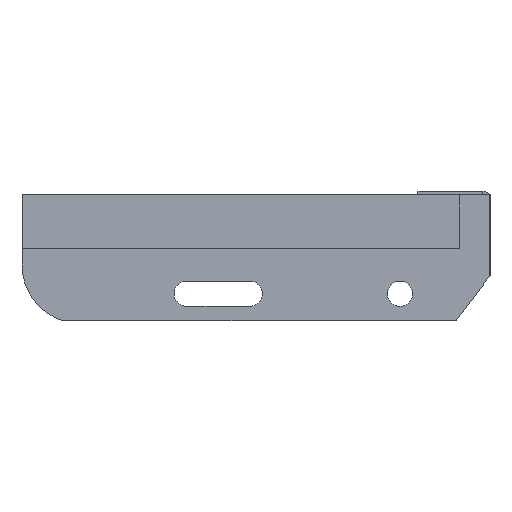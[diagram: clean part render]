
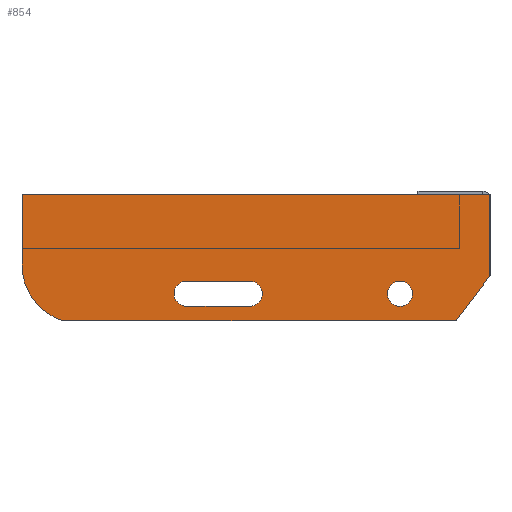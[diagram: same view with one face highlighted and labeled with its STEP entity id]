
A CAD part, left-side view. The second image highlights one B-rep face of the part: STEP entity #854.
In plain terms, the highlighted planar face has unit normal (-1, 0, 0) as drawn and (0, 0, 1) by its records, which use the part's own axes.
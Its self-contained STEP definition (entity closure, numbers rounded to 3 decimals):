
#1 = AXIS2_PLACEMENT_3D ( 'NONE', #1515, #311, #1839 ) ;
#25 = EDGE_CURVE ( 'NONE', #1684, #355, #639, .T. ) ;
#30 = EDGE_CURVE ( 'NONE', #990, #489, #1820, .T. ) ;
#31 = DIRECTION ( 'NONE',  ( 1., 0., 0. ) ) ;
#42 = CARTESIAN_POINT ( 'NONE',  ( 0., 0., 3. ) ) ;
#58 = CARTESIAN_POINT ( 'NONE',  ( -168.5, -48., 3. ) ) ;
#73 = CARTESIAN_POINT ( 'NONE',  ( -57., -55., 3. ) ) ;
#86 = VERTEX_POINT ( 'NONE', #1883 ) ;
#90 = FACE_BOUND ( 'NONE', #1523, .T. ) ;
#101 = DIRECTION ( 'NONE',  ( 0., 0., 1. ) ) ;
#102 = LINE ( 'NONE', #1022, #465 ) ;
#114 = CARTESIAN_POINT ( 'NONE',  ( -168.5, -55., 3. ) ) ;
#118 = DIRECTION ( 'NONE',  ( 1., 0., 0. ) ) ;
#137 = VERTEX_POINT ( 'NONE', #510 ) ;
#148 = ORIENTED_EDGE ( 'NONE', *, *, #1173, .F. ) ;
#151 = EDGE_CURVE ( 'NONE', #651, #1581, #1215, .T. ) ;
#155 = EDGE_LOOP ( 'NONE', ( #148, #247, #545, #1534, #2009 ) ) ;
#172 = VECTOR ( 'NONE', #1550, 1000. ) ;
#182 = CIRCLE ( 'NONE', #1373, 7. ) ;
#190 = LINE ( 'NONE', #615, #1412 ) ;
#195 = CARTESIAN_POINT ( 'NONE',  ( -237.26, -70., 3. ) ) ;
#199 = VERTEX_POINT ( 'NONE', #195 ) ;
#247 = ORIENTED_EDGE ( 'NONE', *, *, #1609, .F. ) ;
#249 = EDGE_CURVE ( 'NONE', #1581, #137, #381, .T. ) ;
#286 = CARTESIAN_POINT ( 'NONE',  ( -175.5, -55., 3. ) ) ;
#311 = DIRECTION ( 'NONE',  ( 0., 0., 1. ) ) ;
#325 = CARTESIAN_POINT ( 'NONE',  ( -50., -55., 3. ) ) ;
#333 = EDGE_LOOP ( 'NONE', ( #632, #443, #1065, #559, #573, #1266 ) ) ;
#337 = DIRECTION ( 'NONE',  ( 1., 0., 0. ) ) ;
#348 = LINE ( 'NONE', #966, #1972 ) ;
#352 = DIRECTION ( 'NONE',  ( 0., 0., 1. ) ) ;
#355 = VERTEX_POINT ( 'NONE', #73 ) ;
#368 = FACE_OUTER_BOUND ( 'NONE', #333, .T. ) ;
#373 = DIRECTION ( 'NONE',  ( 0., 1., 0. ) ) ;
#381 = LINE ( 'NONE', #58, #641 ) ;
#407 = CIRCLE ( 'NONE', #1835, 32.5 ) ;
#422 = EDGE_CURVE ( 'NONE', #490, #1682, #713, .T. ) ;
#443 = ORIENTED_EDGE ( 'NONE', *, *, #661, .T. ) ;
#449 = CARTESIAN_POINT ( 'NONE',  ( -18.839, -70., 3. ) ) ;
#465 = VECTOR ( 'NONE', #373, 1000. ) ;
#484 = LINE ( 'NONE', #42, #172 ) ;
#489 = VERTEX_POINT ( 'NONE', #1991 ) ;
#490 = VERTEX_POINT ( 'NONE', #1209 ) ;
#510 = CARTESIAN_POINT ( 'NONE',  ( -168.5, -48., 3. ) ) ;
#528 = EDGE_CURVE ( 'NONE', #137, #544, #1439, .T. ) ;
#542 = AXIS2_PLACEMENT_3D ( 'NONE', #802, #352, #789 ) ;
#544 = VERTEX_POINT ( 'NONE', #286 ) ;
#545 = ORIENTED_EDGE ( 'NONE', *, *, #528, .F. ) ;
#559 = ORIENTED_EDGE ( 'NONE', *, *, #1204, .T. ) ;
#573 = ORIENTED_EDGE ( 'NONE', *, *, #1314, .T. ) ;
#580 = CARTESIAN_POINT ( 'NONE',  ( -260., 0., 3. ) ) ;
#615 = CARTESIAN_POINT ( 'NONE',  ( -18.839, -70., 3. ) ) ;
#632 = ORIENTED_EDGE ( 'NONE', *, *, #1957, .T. ) ;
#639 = CIRCLE ( 'NONE', #676, 7. ) ;
#641 = VECTOR ( 'NONE', #1168, 1000. ) ;
#651 = VERTEX_POINT ( 'NONE', #933 ) ;
#661 = EDGE_CURVE ( 'NONE', #1598, #490, #484, .T. ) ;
#676 = AXIS2_PLACEMENT_3D ( 'NONE', #1192, #1813, #118 ) ;
#713 = LINE ( 'NONE', #580, #837 ) ;
#721 = PLANE ( 'NONE',  #2003 ) ;
#753 = CARTESIAN_POINT ( 'NONE',  ( -260., -39., 3. ) ) ;
#765 = CARTESIAN_POINT ( 'NONE',  ( -133.5, -48., 3. ) ) ;
#789 = DIRECTION ( 'NONE',  ( 1., 0., 0. ) ) ;
#802 = CARTESIAN_POINT ( 'NONE',  ( -133.5, -55., 3. ) ) ;
#837 = VECTOR ( 'NONE', #1810, 1000. ) ;
#854 = ADVANCED_FACE ( 'NONE', ( #368, #90, #977 ), #721, .T. ) ;
#933 = CARTESIAN_POINT ( 'NONE',  ( -133.5, -62., 3. ) ) ;
#940 = CARTESIAN_POINT ( 'NONE',  ( -227.5, -39., 3. ) ) ;
#966 = CARTESIAN_POINT ( 'NONE',  ( -168.5, -62., 3. ) ) ;
#977 = FACE_BOUND ( 'NONE', #155, .T. ) ;
#985 = CARTESIAN_POINT ( 'NONE',  ( -227.5, -39., 3. ) ) ;
#990 = VERTEX_POINT ( 'NONE', #449 ) ;
#1000 = DIRECTION ( 'NONE',  ( 1., 0., 0. ) ) ;
#1022 = CARTESIAN_POINT ( 'NONE',  ( 0., 0., 3. ) ) ;
#1051 = DIRECTION ( 'NONE',  ( 1., 0., 0. ) ) ;
#1065 = ORIENTED_EDGE ( 'NONE', *, *, #422, .T. ) ;
#1071 = AXIS2_PLACEMENT_3D ( 'NONE', #114, #101, #1051 ) ;
#1168 = DIRECTION ( 'NONE',  ( -1., 0., 0. ) ) ;
#1173 = EDGE_CURVE ( 'NONE', #86, #651, #348, .T. ) ;
#1191 = EDGE_CURVE ( 'NONE', #355, #1684, #182, .T. ) ;
#1192 = CARTESIAN_POINT ( 'NONE',  ( -50., -55., 3. ) ) ;
#1204 = EDGE_CURVE ( 'NONE', #1682, #199, #407, .T. ) ;
#1209 = CARTESIAN_POINT ( 'NONE',  ( -260., 0., 3. ) ) ;
#1214 = CARTESIAN_POINT ( 'NONE',  ( 0., 0., 3. ) ) ;
#1215 = CIRCLE ( 'NONE', #542, 7. ) ;
#1226 = DIRECTION ( 'NONE',  ( 1., 0., 0. ) ) ;
#1241 = DIRECTION ( 'NONE',  ( 0.602, 0.799, 0. ) ) ;
#1266 = ORIENTED_EDGE ( 'NONE', *, *, #30, .T. ) ;
#1314 = EDGE_CURVE ( 'NONE', #199, #990, #190, .T. ) ;
#1373 = AXIS2_PLACEMENT_3D ( 'NONE', #325, #1861, #31 ) ;
#1412 = VECTOR ( 'NONE', #1424, 1000. ) ;
#1424 = DIRECTION ( 'NONE',  ( 1., 0., 0. ) ) ;
#1439 = CIRCLE ( 'NONE', #1071, 7. ) ;
#1515 = CARTESIAN_POINT ( 'NONE',  ( -168.5, -55., 3. ) ) ;
#1523 = EDGE_LOOP ( 'NONE', ( #1749, #1741 ) ) ;
#1534 = ORIENTED_EDGE ( 'NONE', *, *, #249, .F. ) ;
#1550 = DIRECTION ( 'NONE',  ( -1., 0., 0. ) ) ;
#1558 = DIRECTION ( 'NONE',  ( 0., 0., 1. ) ) ;
#1560 = CIRCLE ( 'NONE', #1, 7. ) ;
#1581 = VERTEX_POINT ( 'NONE', #765 ) ;
#1593 = DIRECTION ( 'NONE',  ( 0., 0., 1. ) ) ;
#1594 = CARTESIAN_POINT ( 'NONE',  ( 0., -45., 3. ) ) ;
#1598 = VERTEX_POINT ( 'NONE', #1214 ) ;
#1609 = EDGE_CURVE ( 'NONE', #544, #86, #1560, .T. ) ;
#1682 = VERTEX_POINT ( 'NONE', #753 ) ;
#1684 = VERTEX_POINT ( 'NONE', #2006 ) ;
#1741 = ORIENTED_EDGE ( 'NONE', *, *, #25, .F. ) ;
#1749 = ORIENTED_EDGE ( 'NONE', *, *, #1191, .F. ) ;
#1764 = VECTOR ( 'NONE', #1241, 1000. ) ;
#1810 = DIRECTION ( 'NONE',  ( 0., -1., 0. ) ) ;
#1813 = DIRECTION ( 'NONE',  ( 0., 0., 1. ) ) ;
#1820 = LINE ( 'NONE', #1594, #1764 ) ;
#1835 = AXIS2_PLACEMENT_3D ( 'NONE', #940, #1558, #337 ) ;
#1839 = DIRECTION ( 'NONE',  ( 1., 0., 0. ) ) ;
#1861 = DIRECTION ( 'NONE',  ( 0., 0., 1. ) ) ;
#1883 = CARTESIAN_POINT ( 'NONE',  ( -168.5, -62., 3. ) ) ;
#1957 = EDGE_CURVE ( 'NONE', #489, #1598, #102, .T. ) ;
#1972 = VECTOR ( 'NONE', #1226, 1000. ) ;
#1991 = CARTESIAN_POINT ( 'NONE',  ( 0., -45., 3. ) ) ;
#2003 = AXIS2_PLACEMENT_3D ( 'NONE', #985, #1593, #1000 ) ;
#2006 = CARTESIAN_POINT ( 'NONE',  ( -43., -55., 3. ) ) ;
#2009 = ORIENTED_EDGE ( 'NONE', *, *, #151, .F. ) ;
